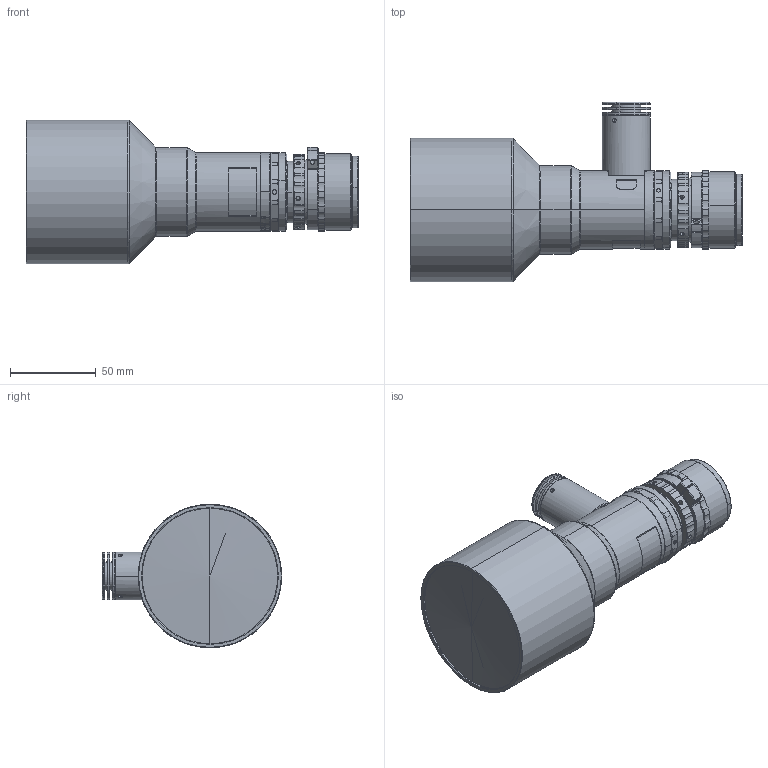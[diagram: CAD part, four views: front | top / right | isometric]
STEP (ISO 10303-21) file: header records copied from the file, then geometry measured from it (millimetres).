
FILE_DESCRIPTION (( 'STEP AP203' ), '1' );
FILE_NAME ('DTCA175-61.4C-G-M42-ALV2.STEP', '2022-11-29T00:51:38', ( '' ), ( '' ), 'SwSTEP 2.0', 'SolidWorks 2017', '' );
FILE_SCHEMA (( 'CONFIG_CONTROL_DESIGN' ));
Length unit declared in the file: millimetre
Products named in the file (1): DTCA175-61.4C-G-M42-ALV2
Bounding box: 194.08 x 105 x 84 mm (x, y, z)
Volume: 608381.2 mm3; surface area: 55137.5 mm2
Topology: 1 solids, 8 shells, 694 faces, 1838 edges, 1178 vertices
Faces by surface type: cylinder 238, cone 224, plane 171, bspline 61
Entity records: 25474 total; most frequent: CARTESIAN_POINT 8799, ORIENTED_EDGE 3648, DIRECTION 3301, EDGE_CURVE 1824, AXIS2_PLACEMENT_3D 1330, VERTEX_POINT 1178, EDGE_LOOP 746, CIRCLE 696
